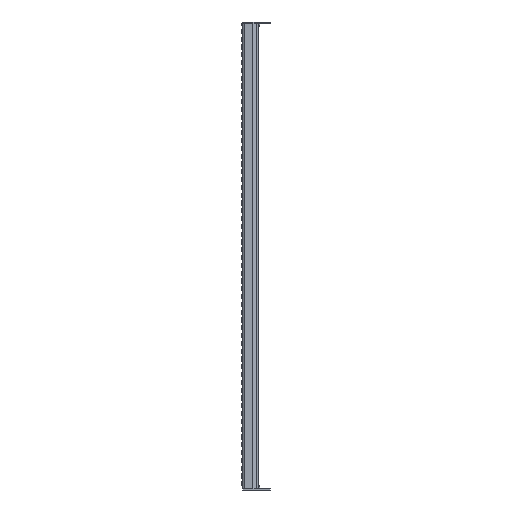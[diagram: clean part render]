
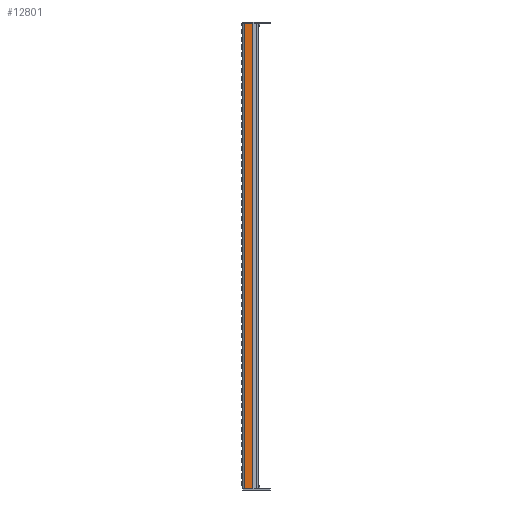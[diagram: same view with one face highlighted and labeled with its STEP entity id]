
A CAD part, left-side view. The second image highlights one B-rep face of the part: STEP entity #12801.
In plain terms, the highlighted planar face has unit normal (-1, 0, 0).
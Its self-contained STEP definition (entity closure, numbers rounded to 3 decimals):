
#2305=FACE_OUTER_BOUND('',#3450,.T.);
#3450=EDGE_LOOP('',(#11235,#11236,#11237,#11238));
#4359=LINE('',#24723,#5371);
#4370=LINE('',#24753,#5382);
#4380=LINE('',#24776,#5392);
#4387=LINE('',#24791,#5399);
#5371=VECTOR('',#17537,10.);
#5382=VECTOR('',#17562,10.);
#5392=VECTOR('',#17584,10.);
#5399=VECTOR('',#17603,10.);
#6566=VERTEX_POINT('',#24720);
#6567=VERTEX_POINT('',#24722);
#6579=VERTEX_POINT('',#24752);
#6586=VERTEX_POINT('',#24775);
#8129=EDGE_CURVE('',#6567,#6566,#4359,.T.);
#8144=EDGE_CURVE('',#6566,#6579,#4370,.T.);
#8156=EDGE_CURVE('',#6586,#6567,#4380,.T.);
#8164=EDGE_CURVE('',#6579,#6586,#4387,.T.);
#11235=ORIENTED_EDGE('',*,*,#8144,.T.);
#11236=ORIENTED_EDGE('',*,*,#8164,.T.);
#11237=ORIENTED_EDGE('',*,*,#8156,.T.);
#11238=ORIENTED_EDGE('',*,*,#8129,.T.);
#11971=PLANE('',#14232);
#12801=ADVANCED_FACE('',(#2305),#11971,.T.);
#14232=AXIS2_PLACEMENT_3D('',#24792,#17604,#17605);
#17537=DIRECTION('',(0.,1.,0.));
#17562=DIRECTION('',(0.,0.,-1.));
#17584=DIRECTION('',(0.,0.,1.));
#17603=DIRECTION('',(0.,-1.,0.));
#17604=DIRECTION('center_axis',(-1.,0.,0.));
#17605=DIRECTION('ref_axis',(0.,0.,1.));
#24720=CARTESIAN_POINT('',(0.,-3.25,1194.));
#24722=CARTESIAN_POINT('',(0.,-24.427,1194.));
#24723=CARTESIAN_POINT('',(0.,0.,1194.));
#24752=CARTESIAN_POINT('',(0.,-3.25,0.));
#24753=CARTESIAN_POINT('',(0.,-3.25,0.));
#24775=CARTESIAN_POINT('',(0.,-24.427,0.));
#24776=CARTESIAN_POINT('',(0.,-24.427,298.5));
#24791=CARTESIAN_POINT('',(0.,0.,0.));
#24792=CARTESIAN_POINT('Origin',(0.,-25.,0.));
